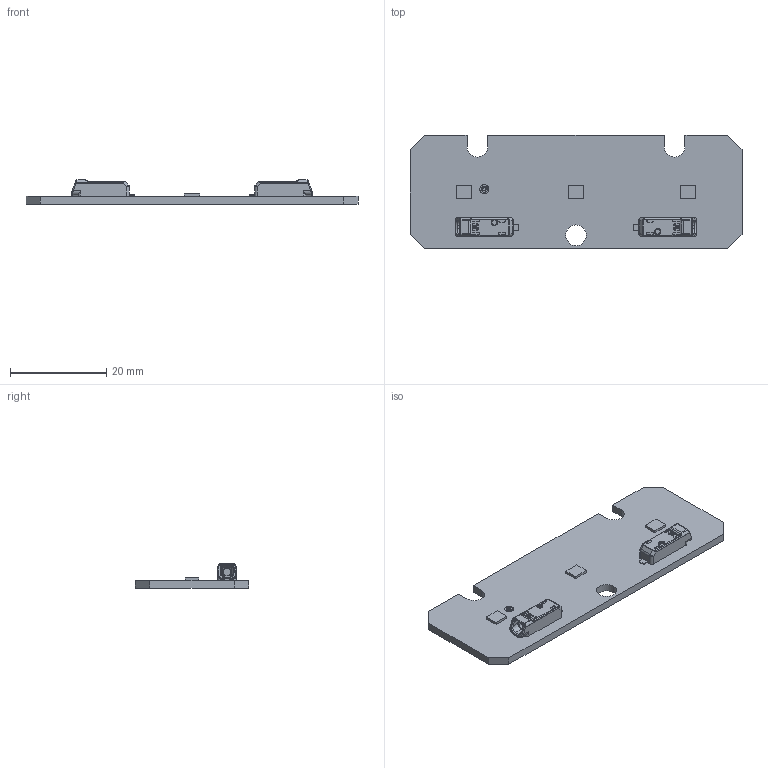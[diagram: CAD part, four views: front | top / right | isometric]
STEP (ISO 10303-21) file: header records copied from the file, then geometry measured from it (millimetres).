
FILE_DESCRIPTION((''),'2;1');
FILE_NAME('16208802_LLE-G5-24X70-160LM','2018-08-21T10:51:52',('bernhard.fink'),(''),'CREO PARAMETRIC BY PTC INC, 2017380','CREO PARAMETRIC BY PTC INC, 2017380','');
FILE_SCHEMA(('AUTOMOTIVE_DESIGN { 1 0 10303 214 1 1 1 1 }'));
Length unit declared in the file: millimetre
Products named in the file (1): 16208802_LLE-G5-24X70-160LM
Bounding box: 69 x 23.6 x 5.1 mm (x, y, z)
Volume: 2831.6 mm3; surface area: 3886.9 mm2
Topology: 1 solids, 1 shells, 526 faces, 1358 edges, 840 vertices
Faces by surface type: plane 216, cylinder 132, bspline 120, cone 34, torus 12, sphere 12
Entity records: 28418 total; most frequent: CARTESIAN_POINT 8596, ORIENTED_EDGE 2688, DIRECTION 1990, PRESENTATION_STYLE_ASSIGNMENT 1871, STYLED_ITEM 1345, CURVE_STYLE 1344, EDGE_CURVE 1344, VERTEX_POINT 838
